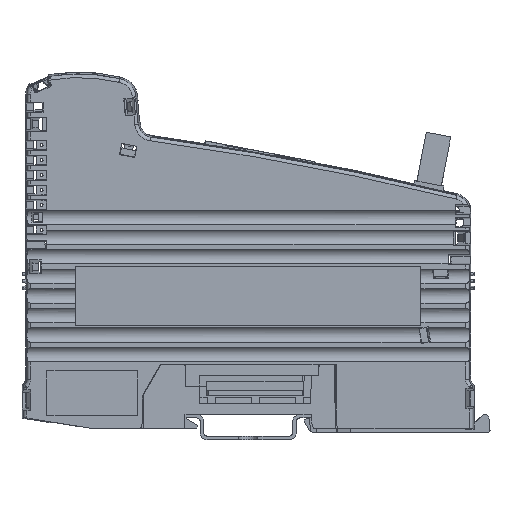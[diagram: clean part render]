
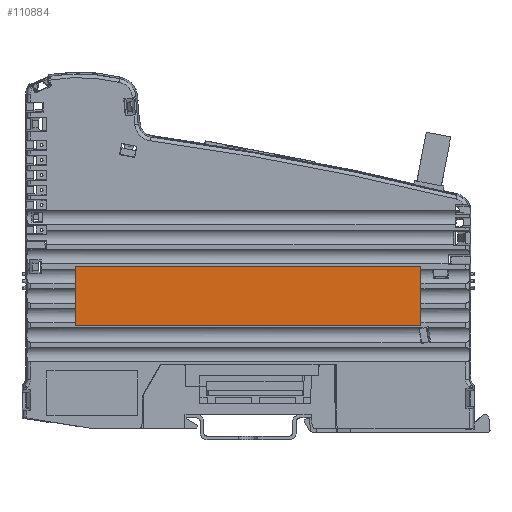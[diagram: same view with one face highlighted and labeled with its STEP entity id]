
A CAD part, left-side view. The second image highlights one B-rep face of the part: STEP entity #110884.
In plain terms, the highlighted planar face has unit normal (-1, 0, 0).
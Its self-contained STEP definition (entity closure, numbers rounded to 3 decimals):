
#9747=ORIENTED_EDGE('',*,*,#40542,.T.);
#9748=ORIENTED_EDGE('',*,*,#40541,.T.);
#9749=ORIENTED_EDGE('',*,*,#40544,.T.);
#9750=ORIENTED_EDGE('',*,*,#40536,.T.);
#9751=ORIENTED_EDGE('',*,*,#40538,.T.);
#9752=ORIENTED_EDGE('',*,*,#40539,.T.);
#9753=ORIENTED_EDGE('',*,*,#40545,.T.);
#9754=ORIENTED_EDGE('',*,*,#40546,.T.);
#9755=ORIENTED_EDGE('',*,*,#40547,.T.);
#9756=ORIENTED_EDGE('',*,*,#40543,.T.);
#40536=EDGE_CURVE('',#56211,#55349,#67477,.T.);
#40538=EDGE_CURVE('',#55349,#55356,#67479,.T.);
#40539=EDGE_CURVE('',#55356,#55359,#67480,.T.);
#40541=EDGE_CURVE('',#56208,#56212,#67482,.T.);
#40542=EDGE_CURVE('',#56209,#56208,#67483,.T.);
#40543=EDGE_CURVE('',#56210,#56209,#67484,.T.);
#40544=EDGE_CURVE('',#56212,#56211,#67485,.T.);
#40545=EDGE_CURVE('',#55359,#56213,#67486,.T.);
#40546=EDGE_CURVE('',#56213,#56214,#67487,.T.);
#40547=EDGE_CURVE('',#56214,#56210,#67488,.T.);
#55349=VERTEX_POINT('',#170123);
#55356=VERTEX_POINT('',#170228);
#55359=VERTEX_POINT('',#170335);
#56208=VERTEX_POINT('',#175172);
#56209=VERTEX_POINT('',#175176);
#56210=VERTEX_POINT('',#175180);
#56211=VERTEX_POINT('',#175185);
#56212=VERTEX_POINT('',#175193);
#56213=VERTEX_POINT('',#175202);
#56214=VERTEX_POINT('',#175204);
#67477=LINE('',#175184,#79792);
#67479=LINE('',#175188,#79794);
#67480=LINE('',#175190,#79795);
#67482=LINE('',#175194,#79797);
#67483=LINE('',#175196,#79798);
#67484=LINE('',#175198,#79799);
#67485=LINE('',#175200,#79800);
#67486=LINE('',#175201,#79801);
#67487=LINE('',#175203,#79802);
#67488=LINE('',#175205,#79803);
#79792=VECTOR('',#142400,1000.);
#79794=VECTOR('',#142404,1000.);
#79795=VECTOR('',#142407,1000.);
#79797=VECTOR('',#142411,1000.);
#79798=VECTOR('',#142414,1000.);
#79799=VECTOR('',#142417,1000.);
#79800=VECTOR('',#142420,1000.);
#79801=VECTOR('',#142421,1000.);
#79802=VECTOR('',#142422,1000.);
#79803=VECTOR('',#142423,1000.);
#91177=EDGE_LOOP('',(#9747,#9748,#9749,#9750,#9751,#9752,#9753,#9754,#9755,
#9756));
#98801=FACE_BOUND('',#91177,.T.);
#106234=PLANE('',#131118);
#110884=ADVANCED_FACE('',(#98801),#106234,.T.);
#131118=AXIS2_PLACEMENT_3D('',#175199,#142418,#142419);
#142400=DIRECTION('',(0.,0.,-1.));
#142404=DIRECTION('',(0.,0.,-1.));
#142407=DIRECTION('',(0.,0.,-1.));
#142411=DIRECTION('',(0.,0.,1.));
#142414=DIRECTION('',(0.,0.,1.));
#142417=DIRECTION('',(0.,0.,1.));
#142418=DIRECTION('',(-1.,0.,0.));
#142419=DIRECTION('',(0.,-1.,0.));
#142420=DIRECTION('',(0.,1.,0.));
#142421=DIRECTION('',(0.,0.,-1.));
#142422=DIRECTION('',(0.,-1.,0.));
#142423=DIRECTION('',(0.,0.,1.));
#170123=CARTESIAN_POINT('',(-11.5,48.483,42.8));
#170228=CARTESIAN_POINT('',(-11.5,48.483,37.3));
#170335=CARTESIAN_POINT('',(-11.5,48.483,31.8));
#175172=CARTESIAN_POINT('',(-11.5,-48.483,42.8));
#175176=CARTESIAN_POINT('',(-11.5,-48.483,37.3));
#175180=CARTESIAN_POINT('',(-11.5,-48.483,31.8));
#175184=CARTESIAN_POINT('',(-11.5,48.483,29.));
#175185=CARTESIAN_POINT('',(-11.5,48.483,45.483));
#175188=CARTESIAN_POINT('',(-11.5,48.483,29.));
#175190=CARTESIAN_POINT('',(-11.5,48.483,29.));
#175193=CARTESIAN_POINT('',(-11.5,-48.483,45.483));
#175194=CARTESIAN_POINT('',(-11.5,-48.483,29.));
#175196=CARTESIAN_POINT('',(-11.5,-48.483,29.));
#175198=CARTESIAN_POINT('',(-11.5,-48.483,29.));
#175199=CARTESIAN_POINT('',(-11.5,48.5,29.));
#175200=CARTESIAN_POINT('',(-11.5,48.5,45.483));
#175201=CARTESIAN_POINT('',(-11.5,48.483,29.));
#175202=CARTESIAN_POINT('',(-11.5,48.483,29.017));
#175203=CARTESIAN_POINT('',(-11.5,48.5,29.017));
#175204=CARTESIAN_POINT('',(-11.5,-48.483,29.017));
#175205=CARTESIAN_POINT('',(-11.5,-48.483,29.));
